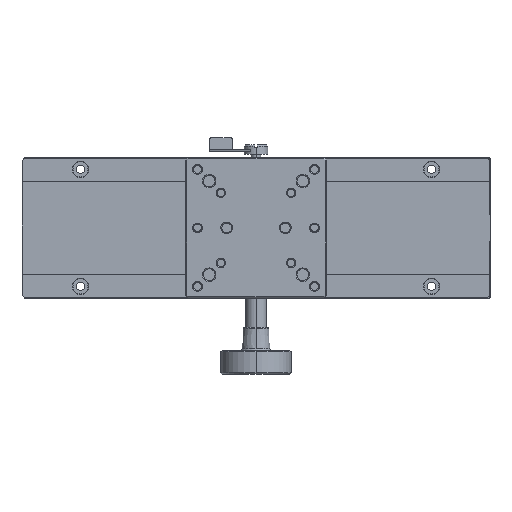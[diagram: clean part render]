
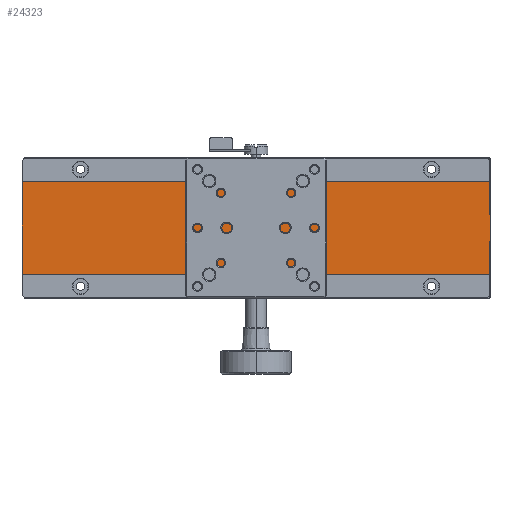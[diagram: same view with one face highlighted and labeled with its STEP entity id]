
A CAD part, front view. The second image highlights one B-rep face of the part: STEP entity #24323.
In plain terms, the highlighted planar face has unit normal (0, -1, 0).
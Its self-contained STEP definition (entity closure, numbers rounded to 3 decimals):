
#150 = VERTEX_POINT ( 'NONE', #25182 ) ;
#522 = DIRECTION ( 'NONE',  ( -1., 0., 0. ) ) ;
#677 = DIRECTION ( 'NONE',  ( 1., 0., 0. ) ) ;
#1196 = LINE ( 'NONE', #21153, #25840 ) ;
#1288 = EDGE_CURVE ( 'NONE', #150, #15482, #2346, .T. ) ;
#1648 = EDGE_CURVE ( 'NONE', #20120, #9121, #9637, .T. ) ;
#1824 = VECTOR ( 'NONE', #522, 1000. ) ;
#2129 = EDGE_CURVE ( 'NONE', #10889, #25174, #1196, .T. ) ;
#2346 = LINE ( 'NONE', #27662, #28065 ) ;
#3132 = DIRECTION ( 'NONE',  ( 0., 0., -1. ) ) ;
#3200 = CARTESIAN_POINT ( 'NONE',  ( 125., -9.5, -5.783 ) ) ;
#3658 = ORIENTED_EDGE ( 'NONE', *, *, #30061, .T. ) ;
#3796 = ORIENTED_EDGE ( 'NONE', *, *, #8957, .F. ) ;
#4210 = VERTEX_POINT ( 'NONE', #4514 ) ;
#4334 = DIRECTION ( 'NONE',  ( 0., 0., -1. ) ) ;
#4514 = CARTESIAN_POINT ( 'NONE',  ( 100., -9.5, -5.783 ) ) ;
#4900 = ORIENTED_EDGE ( 'NONE', *, *, #2129, .F. ) ;
#4908 = VECTOR ( 'NONE', #11326, 1000. ) ;
#4941 = VECTOR ( 'NONE', #10996, 1000. ) ;
#5135 = EDGE_CURVE ( 'NONE', #20261, #20328, #16803, .T. ) ;
#5149 = DIRECTION ( 'NONE',  ( 0., 0., 1. ) ) ;
#5305 = DIRECTION ( 'NONE',  ( -1., 0., 0. ) ) ;
#5356 = ORIENTED_EDGE ( 'NONE', *, *, #20516, .T. ) ;
#6128 = VECTOR ( 'NONE', #16654, 1000. ) ;
#6899 = CARTESIAN_POINT ( 'NONE',  ( -99.8, -9.5, 5.644 ) ) ;
#7336 = AXIS2_PLACEMENT_3D ( 'NONE', #26373, #14646, #5149 ) ;
#7363 = VERTEX_POINT ( 'NONE', #10994 ) ;
#7871 = EDGE_CURVE ( 'NONE', #14989, #20261, #14811, .T. ) ;
#8211 = LINE ( 'NONE', #16003, #18175 ) ;
#8271 = CARTESIAN_POINT ( 'NONE',  ( 100., -9.5, 5.644 ) ) ;
#8296 = DIRECTION ( 'NONE',  ( 0., 0., 1. ) ) ;
#8879 = VECTOR ( 'NONE', #8296, 1000. ) ;
#8931 = DIRECTION ( 'NONE',  ( 0., 0., -1. ) ) ;
#8957 = EDGE_CURVE ( 'NONE', #7363, #10889, #26569, .T. ) ;
#9121 = VERTEX_POINT ( 'NONE', #12354 ) ;
#9400 = DIRECTION ( 'NONE',  ( 0., 0., 1. ) ) ;
#9528 = CARTESIAN_POINT ( 'NONE',  ( 125., -9.5, -5.783 ) ) ;
#9637 = LINE ( 'NONE', #28719, #12964 ) ;
#9828 = LINE ( 'NONE', #26874, #16854 ) ;
#9977 = LINE ( 'NONE', #10063, #24719 ) ;
#9996 = CARTESIAN_POINT ( 'NONE',  ( -100., -9.5, -5.783 ) ) ;
#10063 = CARTESIAN_POINT ( 'NONE',  ( 125., -9.5, -20. ) ) ;
#10116 = CARTESIAN_POINT ( 'NONE',  ( -99.8, -9.5, 20. ) ) ;
#10809 = EDGE_CURVE ( 'NONE', #24308, #150, #26492, .T. ) ;
#10889 = VERTEX_POINT ( 'NONE', #6899 ) ;
#10994 = CARTESIAN_POINT ( 'NONE',  ( -100., -9.5, 5.644 ) ) ;
#10996 = DIRECTION ( 'NONE',  ( 0., 0., 1. ) ) ;
#11326 = DIRECTION ( 'NONE',  ( 1., 0., 0. ) ) ;
#11499 = EDGE_CURVE ( 'NONE', #4210, #20120, #28310, .T. ) ;
#11507 = ORIENTED_EDGE ( 'NONE', *, *, #12018, .F. ) ;
#12018 = EDGE_CURVE ( 'NONE', #25174, #24308, #9828, .T. ) ;
#12132 = FACE_OUTER_BOUND ( 'NONE', #23016, .T. ) ;
#12179 = PLANE ( 'NONE',  #7336 ) ;
#12354 = CARTESIAN_POINT ( 'NONE',  ( 99.8, -9.5, -20. ) ) ;
#12964 = VECTOR ( 'NONE', #3132, 1000. ) ;
#13589 = CARTESIAN_POINT ( 'NONE',  ( 125., -9.5, 5.644 ) ) ;
#14646 = DIRECTION ( 'NONE',  ( 0., 1., 0. ) ) ;
#14811 = LINE ( 'NONE', #24061, #8879 ) ;
#14989 = VERTEX_POINT ( 'NONE', #20657 ) ;
#15482 = VERTEX_POINT ( 'NONE', #8271 ) ;
#16003 = CARTESIAN_POINT ( 'NONE',  ( -100., -9.5, -63.486 ) ) ;
#16566 = ORIENTED_EDGE ( 'NONE', *, *, #5135, .F. ) ;
#16654 = DIRECTION ( 'NONE',  ( -1., 0., 0. ) ) ;
#16803 = LINE ( 'NONE', #9528, #6128 ) ;
#16854 = VECTOR ( 'NONE', #677, 1000. ) ;
#18126 = LINE ( 'NONE', #24909, #4941 ) ;
#18175 = VECTOR ( 'NONE', #4334, 1000. ) ;
#18965 = CARTESIAN_POINT ( 'NONE',  ( 99.8, -9.5, 20. ) ) ;
#20120 = VERTEX_POINT ( 'NONE', #27639 ) ;
#20261 = VERTEX_POINT ( 'NONE', #28050 ) ;
#20328 = VERTEX_POINT ( 'NONE', #9996 ) ;
#20516 = EDGE_CURVE ( 'NONE', #4210, #15482, #18126, .T. ) ;
#20657 = CARTESIAN_POINT ( 'NONE',  ( -99.8, -9.5, -20. ) ) ;
#21153 = CARTESIAN_POINT ( 'NONE',  ( -99.8, -9.5, 10.363 ) ) ;
#21445 = ORIENTED_EDGE ( 'NONE', *, *, #1648, .F. ) ;
#22691 = EDGE_CURVE ( 'NONE', #9121, #14989, #9977, .T. ) ;
#23016 = EDGE_LOOP ( 'NONE', ( #16566, #29927, #29899, #21445, #27154, #5356, #24183, #26176, #11507, #4900, #3796, #3658 ) ) ;
#23134 = VECTOR ( 'NONE', #8931, 1000. ) ;
#23292 = DIRECTION ( 'NONE',  ( 1., 0., 0. ) ) ;
#24061 = CARTESIAN_POINT ( 'NONE',  ( -99.8, -9.5, 10.363 ) ) ;
#24183 = ORIENTED_EDGE ( 'NONE', *, *, #1288, .F. ) ;
#24308 = VERTEX_POINT ( 'NONE', #18965 ) ;
#24323 = ADVANCED_FACE ( 'NONE', ( #12132 ), #12179, .F. ) ;
#24719 = VECTOR ( 'NONE', #5305, 1000. ) ;
#24909 = CARTESIAN_POINT ( 'NONE',  ( 100., -9.5, 65.162 ) ) ;
#25174 = VERTEX_POINT ( 'NONE', #10116 ) ;
#25182 = CARTESIAN_POINT ( 'NONE',  ( 99.8, -9.5, 5.644 ) ) ;
#25840 = VECTOR ( 'NONE', #9400, 1000. ) ;
#26176 = ORIENTED_EDGE ( 'NONE', *, *, #10809, .F. ) ;
#26373 = CARTESIAN_POINT ( 'NONE',  ( 125., -9.5, 10.363 ) ) ;
#26492 = LINE ( 'NONE', #30240, #23134 ) ;
#26569 = LINE ( 'NONE', #13589, #4908 ) ;
#26874 = CARTESIAN_POINT ( 'NONE',  ( 125., -9.5, 20. ) ) ;
#27154 = ORIENTED_EDGE ( 'NONE', *, *, #11499, .F. ) ;
#27639 = CARTESIAN_POINT ( 'NONE',  ( 99.8, -9.5, -5.783 ) ) ;
#27662 = CARTESIAN_POINT ( 'NONE',  ( -100., -9.5, 5.644 ) ) ;
#28050 = CARTESIAN_POINT ( 'NONE',  ( -99.8, -9.5, -5.783 ) ) ;
#28065 = VECTOR ( 'NONE', #23292, 1000. ) ;
#28310 = LINE ( 'NONE', #3200, #1824 ) ;
#28719 = CARTESIAN_POINT ( 'NONE',  ( 99.8, -9.5, 10.363 ) ) ;
#29899 = ORIENTED_EDGE ( 'NONE', *, *, #22691, .F. ) ;
#29927 = ORIENTED_EDGE ( 'NONE', *, *, #7871, .F. ) ;
#30061 = EDGE_CURVE ( 'NONE', #7363, #20328, #8211, .T. ) ;
#30240 = CARTESIAN_POINT ( 'NONE',  ( 99.8, -9.5, 12. ) ) ;
